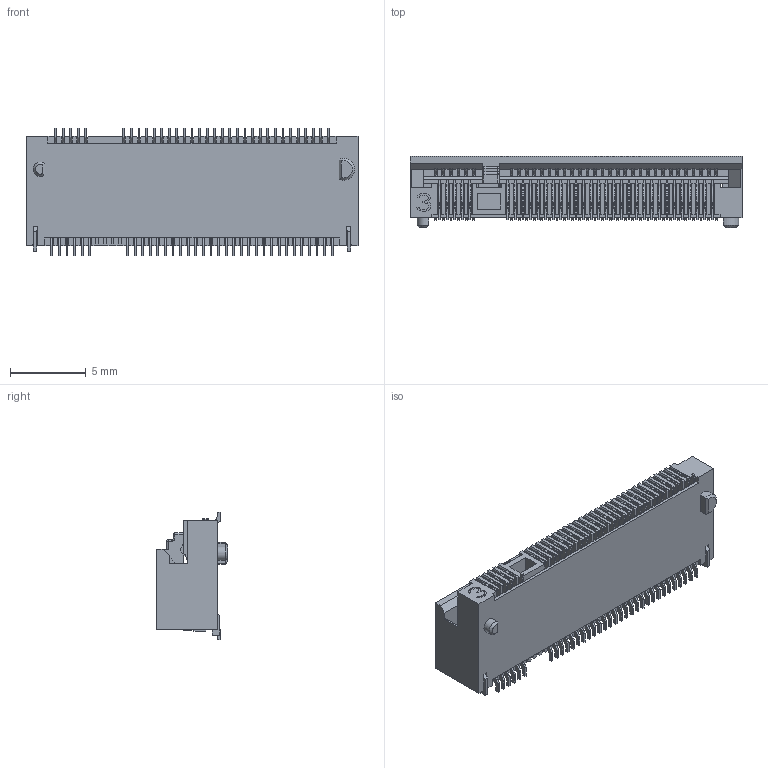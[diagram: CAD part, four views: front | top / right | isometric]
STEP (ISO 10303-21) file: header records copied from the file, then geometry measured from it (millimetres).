
FILE_DESCRIPTION((''),'2;1');
FILE_NAME('MDT420X0X411_ASM','2023-05-29T15:15:34',('allen.tang'),(''),'CREO PARAMETRIC BY PTC INC, 2020053','CREO PARAMETRIC BY PTC INC, 2020053','');
FILE_SCHEMA(('AUTOMOTIVE_DESIGN { 1 0 10303 214 1 1 1 1 }'));
Products named in the file (5): MDT420XH005; UPPER_PIN; UNDER_PIN; MDTST009X; MDT420X0X411_ASM
Assembly tree (70 placements, depth 2):
  MDT420X0X411_ASM
    MDT420XH005
    UPPER_PIN  x34
    UNDER_PIN  x33
    MDTST009X  x2
Bounding box: 21.9 x 4.7 x 8.4 mm (x, y, z)
Volume: 384.9 mm3; surface area: 2118.2 mm2
Topology: 70 solids, 70 shells, 5434 faces, 15669 edges, 10299 vertices
Faces by surface type: plane 4167, cylinder 1259, sphere 4, cone 2, torus 2
Entity records: 82880 total; most frequent: CARTESIAN_POINT 14751, ORIENTED_EDGE 14188, DIRECTION 13407, EDGE_CURVE 7094, VECTOR 6530, LINE 6530, VERTEX_POINT 4669, AXIS2_PLACEMENT_3D 3431
